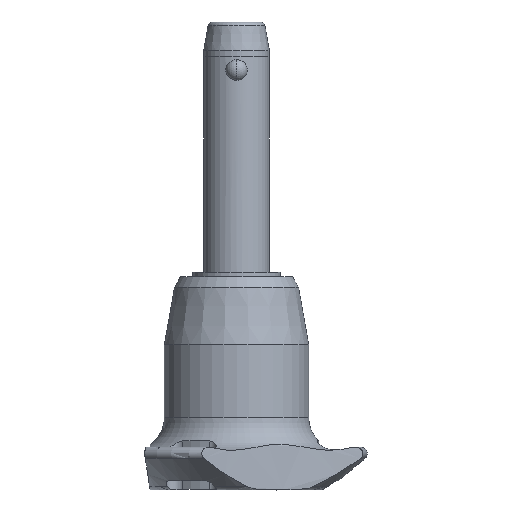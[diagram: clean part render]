
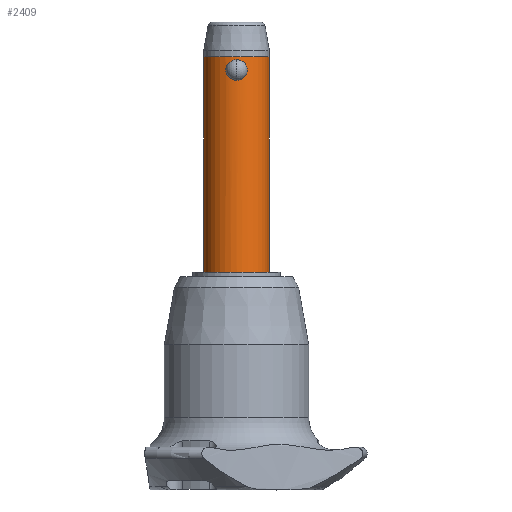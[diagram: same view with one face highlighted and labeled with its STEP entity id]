
A CAD part, front view. The second image highlights one B-rep face of the part: STEP entity #2409.
In plain terms, the highlighted cylindrical face has radius 6 mm (diameter 12 mm), a partial arc.
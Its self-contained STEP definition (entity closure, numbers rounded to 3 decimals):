
#6 = CARTESIAN_POINT ( 'NONE',  ( -6., 0., -35. ) ) ;
#10 = DIRECTION ( 'NONE',  ( 0., 0., 1. ) ) ;
#24 = CARTESIAN_POINT ( 'NONE',  ( -6., 0., 4.24 ) ) ;
#27 = CARTESIAN_POINT ( 'NONE',  ( -1.179, -5.884, 0.363 ) ) ;
#46 = DIRECTION ( 'NONE',  ( 0., 0., 1. ) ) ;
#50 = DIRECTION ( 'NONE',  ( 1., 0., 0. ) ) ;
#54 = CARTESIAN_POINT ( 'NONE',  ( -1.177, -5.884, 3.347 ) ) ;
#67 = CARTESIAN_POINT ( 'NONE',  ( -1.46, -5.821, 3.103 ) ) ;
#96 = CARTESIAN_POINT ( 'NONE',  ( -0.25, -6., 0. ) ) ;
#131 = AXIS2_PLACEMENT_3D ( 'NONE', #1431, #1396, #50 ) ;
#142 = CARTESIAN_POINT ( 'NONE',  ( 0., 0., -35. ) ) ;
#147 = CARTESIAN_POINT ( 'NONE',  ( 1.942, -5.677, 2.103 ) ) ;
#193 = CARTESIAN_POINT ( 'NONE',  ( 0.252, -5.996, 3.697 ) ) ;
#217 = EDGE_CURVE ( 'NONE', #2790, #1797, #2934, .T. ) ;
#261 = CARTESIAN_POINT ( 'NONE',  ( 6., 0., -35. ) ) ;
#266 = CARTESIAN_POINT ( 'NONE',  ( -1.541, -5.799, 3.011 ) ) ;
#282 = CARTESIAN_POINT ( 'NONE',  ( -0.252, -5.996, 3.697 ) ) ;
#351 = CARTESIAN_POINT ( 'NONE',  ( 0.498, -5.981, 3.652 ) ) ;
#405 = CARTESIAN_POINT ( 'NONE',  ( 0.25, -6., 0. ) ) ;
#537 = CARTESIAN_POINT ( 'NONE',  ( -1.955, -5.673, 1.731 ) ) ;
#575 = CARTESIAN_POINT ( 'NONE',  ( 0.966, -5.923, 3.476 ) ) ;
#601 = DIRECTION ( 'NONE',  ( 1., 0., 0. ) ) ;
#624 = CARTESIAN_POINT ( 'NONE',  ( 0.855, -5.94, 3.53 ) ) ;
#630 = CARTESIAN_POINT ( 'NONE',  ( 1.277, -5.863, 0.437 ) ) ;
#636 = ORIENTED_EDGE ( 'NONE', *, *, #1342, .F. ) ;
#645 = CARTESIAN_POINT ( 'NONE',  ( 0.966, -5.923, 0.232 ) ) ;
#688 = ORIENTED_EDGE ( 'NONE', *, *, #1440, .F. ) ;
#722 = DIRECTION ( 'NONE',  ( 1., 0., 0. ) ) ;
#769 = ORIENTED_EDGE ( 'NONE', *, *, #2317, .F. ) ;
#779 = CARTESIAN_POINT ( 'NONE',  ( -6., 0., -35. ) ) ;
#841 = CARTESIAN_POINT ( 'NONE',  ( 1.178, -5.884, 0.362 ) ) ;
#870 = CARTESIAN_POINT ( 'NONE',  ( 0., -6., 3.708 ) ) ;
#879 = CARTESIAN_POINT ( 'NONE',  ( 1.279, -5.863, 3.27 ) ) ;
#955 = CIRCLE ( 'NONE', #1661, 6. ) ;
#962 = CARTESIAN_POINT ( 'NONE',  ( -0.62, -5.969, 3.619 ) ) ;
#966 = ORIENTED_EDGE ( 'NONE', *, *, #2503, .T. ) ;
#976 = CARTESIAN_POINT ( 'NONE',  ( -1.75, -5.74, 2.7 ) ) ;
#1029 = CARTESIAN_POINT ( 'NONE',  ( 0., 0., 4.24 ) ) ;
#1065 = DIRECTION ( 'NONE',  ( 0., 0., -1. ) ) ;
#1073 = VERTEX_POINT ( 'NONE', #24 ) ;
#1083 = CARTESIAN_POINT ( 'NONE',  ( 0.127, -6., 3.708 ) ) ;
#1091 = CARTESIAN_POINT ( 'NONE',  ( 0., -6., 0. ) ) ;
#1164 = CYLINDRICAL_SURFACE ( 'NONE', #131, 6. ) ;
#1192 = CARTESIAN_POINT ( 'NONE',  ( -1.942, -5.677, 1.604 ) ) ;
#1210 = CARTESIAN_POINT ( 'NONE',  ( -1.687, -5.759, 2.809 ) ) ;
#1219 = LINE ( 'NONE', #261, #1800 ) ;
#1237 = CARTESIAN_POINT ( 'NONE',  ( 6., 0., -35. ) ) ;
#1249 = EDGE_CURVE ( 'NONE', #1875, #1073, #2283, .T. ) ;
#1297 = VECTOR ( 'NONE', #2747, 1000. ) ;
#1320 = CARTESIAN_POINT ( 'NONE',  ( 1.551, -5.799, 3.018 ) ) ;
#1327 = CARTESIAN_POINT ( 'NONE',  ( 1.459, -5.821, 0.604 ) ) ;
#1335 = CARTESIAN_POINT ( 'NONE',  ( 1.955, -5.673, 1.979 ) ) ;
#1342 = EDGE_CURVE ( 'NONE', #1073, #2822, #2104, .T. ) ;
#1396 = DIRECTION ( 'NONE',  ( 0., 0., 1. ) ) ;
#1418 = CARTESIAN_POINT ( 'NONE',  ( 0., -6., 3.708 ) ) ;
#1431 = CARTESIAN_POINT ( 'NONE',  ( 0., 0., -35. ) ) ;
#1440 = EDGE_CURVE ( 'NONE', #1905, #1875, #955, .T. ) ;
#1458 = CARTESIAN_POINT ( 'NONE',  ( -0.966, -5.923, 3.476 ) ) ;
#1504 = CARTESIAN_POINT ( 'NONE',  ( 1.178, -5.884, 3.346 ) ) ;
#1558 = CARTESIAN_POINT ( 'NONE',  ( 1.687, -5.758, 0.899 ) ) ;
#1625 = CARTESIAN_POINT ( 'NONE',  ( -1.551, -5.799, 0.69 ) ) ;
#1661 = AXIS2_PLACEMENT_3D ( 'NONE', #142, #1065, #601 ) ;
#1664 = B_SPLINE_CURVE_WITH_KNOTS ( 'NONE', 3,
 ( #1418, #2129, #282, #1894, #962, #2579, #1458, #54, #2372, #67, #266, #1210, #976, #1880, #2779, #537, #1192, #2314, #2357, #2083, #1625, #2102, #27, #2828, #1938, #2865, #96, #1960 ),
 .UNSPECIFIED., .F., .F.,
 ( 4, 2, 2, 2, 2, 2, 2, 2, 2, 2, 2, 2, 2, 4 ),
 ( 0., 0., 0.001, 0.001, 0.002, 0.002, 0.002, 0.003, 0.003, 0.004, 0.005, 0.005, 0.005, 0.006 ),
 .UNSPECIFIED. ) ;
#1665 = FACE_BOUND ( 'NONE', #2500, .T. ) ;
#1782 = CARTESIAN_POINT ( 'NONE',  ( 1.901, -5.692, 1.35 ) ) ;
#1797 = VERTEX_POINT ( 'NONE', #870 ) ;
#1800 = VECTOR ( 'NONE', #10, 1000. ) ;
#1811 = ORIENTED_EDGE ( 'NONE', *, *, #217, .F. ) ;
#1875 = VERTEX_POINT ( 'NONE', #779 ) ;
#1880 = CARTESIAN_POINT ( 'NONE',  ( -1.9, -5.692, 2.359 ) ) ;
#1894 = CARTESIAN_POINT ( 'NONE',  ( -0.498, -5.981, 3.652 ) ) ;
#1905 = VERTEX_POINT ( 'NONE', #1237 ) ;
#1938 = CARTESIAN_POINT ( 'NONE',  ( -0.853, -5.94, 0.177 ) ) ;
#1960 = CARTESIAN_POINT ( 'NONE',  ( 0., -6., 0. ) ) ;
#1984 = CARTESIAN_POINT ( 'NONE',  ( 1.851, -5.708, 2.47 ) ) ;
#1992 = CARTESIAN_POINT ( 'NONE',  ( 0.853, -5.94, 0.177 ) ) ;
#2019 = CARTESIAN_POINT ( 'NONE',  ( 0.62, -5.969, 3.619 ) ) ;
#2083 = CARTESIAN_POINT ( 'NONE',  ( -1.7, -5.755, 0.895 ) ) ;
#2102 = CARTESIAN_POINT ( 'NONE',  ( -1.278, -5.863, 0.437 ) ) ;
#2104 = CIRCLE ( 'NONE', #2379, 6. ) ;
#2111 = FACE_OUTER_BOUND ( 'NONE', #2685, .T. ) ;
#2129 = CARTESIAN_POINT ( 'NONE',  ( -0.127, -6., 3.708 ) ) ;
#2142 = CARTESIAN_POINT ( 'NONE',  ( 0., -6., 0. ) ) ;
#2203 = CARTESIAN_POINT ( 'NONE',  ( 1.955, -5.673, 1.6 ) ) ;
#2239 = CARTESIAN_POINT ( 'NONE',  ( 1.543, -5.799, 0.699 ) ) ;
#2283 = LINE ( 'NONE', #6, #1297 ) ;
#2314 = CARTESIAN_POINT ( 'NONE',  ( -1.89, -5.695, 1.358 ) ) ;
#2317 = EDGE_CURVE ( 'NONE', #1797, #2790, #1664, .T. ) ;
#2357 = CARTESIAN_POINT ( 'NONE',  ( -1.852, -5.707, 1.239 ) ) ;
#2372 = CARTESIAN_POINT ( 'NONE',  ( -1.278, -5.863, 3.271 ) ) ;
#2379 = AXIS2_PLACEMENT_3D ( 'NONE', #1029, #46, #722 ) ;
#2392 = CARTESIAN_POINT ( 'NONE',  ( 6., 0., 4.24 ) ) ;
#2409 = ADVANCED_FACE ( 'NONE', ( #2111, #1665 ), #1164, .T. ) ;
#2448 = CARTESIAN_POINT ( 'NONE',  ( 1.749, -5.74, 1.007 ) ) ;
#2500 = EDGE_LOOP ( 'NONE', ( #769, #1811 ) ) ;
#2503 = EDGE_CURVE ( 'NONE', #1905, #2822, #1219, .T. ) ;
#2579 = CARTESIAN_POINT ( 'NONE',  ( -0.854, -5.94, 3.53 ) ) ;
#2634 = CARTESIAN_POINT ( 'NONE',  ( 1.89, -5.695, 2.349 ) ) ;
#2685 = EDGE_LOOP ( 'NONE', ( #2762, #688, #966, #636 ) ) ;
#2688 = CARTESIAN_POINT ( 'NONE',  ( 0.503, -5.983, 0.045 ) ) ;
#2747 = DIRECTION ( 'NONE',  ( 0., 0., 1. ) ) ;
#2762 = ORIENTED_EDGE ( 'NONE', *, *, #1249, .F. ) ;
#2779 = CARTESIAN_POINT ( 'NONE',  ( -1.955, -5.673, 2.107 ) ) ;
#2790 = VERTEX_POINT ( 'NONE', #2142 ) ;
#2822 = VERTEX_POINT ( 'NONE', #2392 ) ;
#2828 = CARTESIAN_POINT ( 'NONE',  ( -0.967, -5.923, 0.233 ) ) ;
#2865 = CARTESIAN_POINT ( 'NONE',  ( -0.504, -5.983, 0.045 ) ) ;
#2888 = CARTESIAN_POINT ( 'NONE',  ( 0., -6., 3.708 ) ) ;
#2918 = CARTESIAN_POINT ( 'NONE',  ( 1.7, -5.755, 2.812 ) ) ;
#2934 = B_SPLINE_CURVE_WITH_KNOTS ( 'NONE', 3,
 ( #1091, #405, #2688, #1992, #645, #841, #630, #1327, #2239, #1558, #2448, #1782, #2203, #1335, #147, #2634, #1984, #2918, #1320, #879, #1504, #575, #624, #2019, #351, #193, #1083, #2888 ),
 .UNSPECIFIED., .F., .F.,
 ( 4, 2, 2, 2, 2, 2, 2, 2, 2, 2, 2, 2, 2, 4 ),
 ( 0.006, 0.007, 0.007, 0.008, 0.008, 0.008, 0.009, 0.009, 0.01, 0.011, 0.011, 0.011, 0.012, 0.012 ),
 .UNSPECIFIED. ) ;
